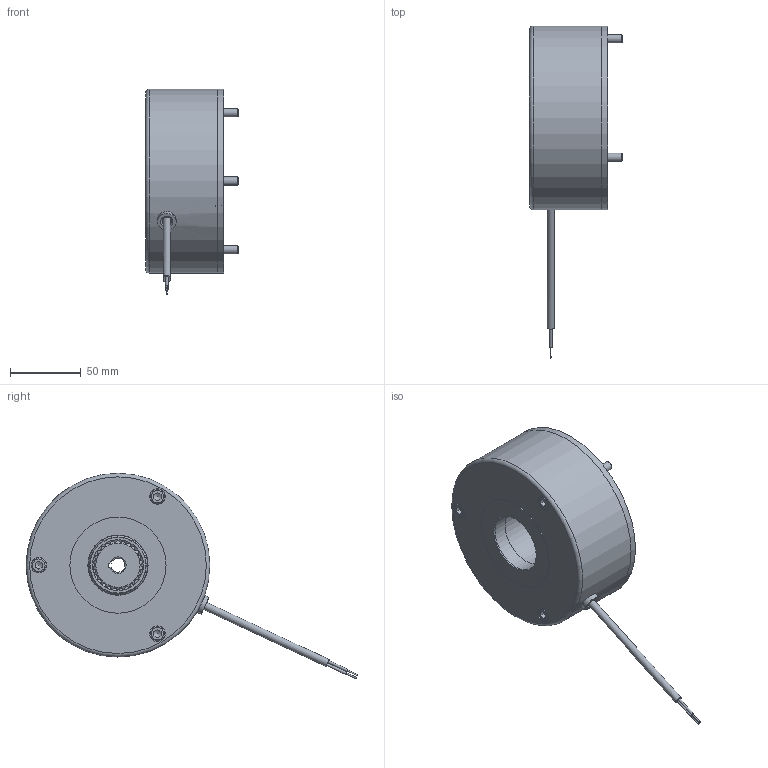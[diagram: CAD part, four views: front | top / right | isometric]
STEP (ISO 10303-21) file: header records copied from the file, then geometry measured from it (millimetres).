
FILE_DESCRIPTION(/* description */ (''),/* implementation_level */ '2;1');
FILE_NAME(/* name */ 'C:\SapWorkDir\Inventor\IP1\ConvertTempPath\5028629_IPT_000.ipt.stp',/* time_stamp */ '2020-09-11T13:46:52+02:00',/* author */ ('STRATE'),/* organization */ (''),/* preprocessor_version */ 'ST-DEVELOPER v17',/* originating_system */ 'Autodesk Inventor 2018',/* authorisation */ '');
FILE_SCHEMA (('AUTOMOTIVE_DESIGN { 1 0 10303 214 3 1 1 }'));
Length unit declared in the file: millimetre
Products named in the file (1): 5028629
Bounding box: 66.3 x 234.79 x 145.31 mm (x, y, z)
Volume: 516889.3 mm3; surface area: 115499.7 mm2
Topology: 4 solids, 4 shells, 351 faces, 984 edges, 673 vertices
Faces by surface type: cylinder 250, plane 62, torus 21, cone 18
Full cylindrical faces by diameter (mm): 1 x2, 1.85 x2, 5.3 x1, 6 x3, 6.2 x3, 6.5 x3, 6.6 x4, 9.9 x3, 10 x3, 11 x3, 13.2 x1, 42 x1, 44 x2, 65.7 x2, 68 x1, 95 x1, 122 x1, 128 x2, 130 x2
Entity records: 12738 total; most frequent: CARTESIAN_POINT 3179, ORIENTED_EDGE 1966, DIRECTION 1880, EDGE_CURVE 983, AXIS2_PLACEMENT_3D 784, VERTEX_POINT 673, CIRCLE 432, EDGE_LOOP 400
